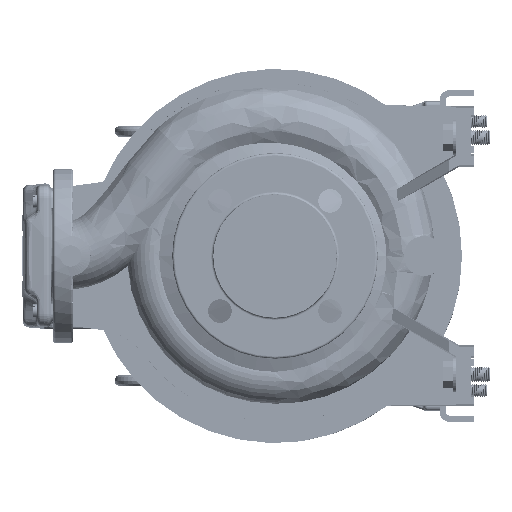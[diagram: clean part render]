
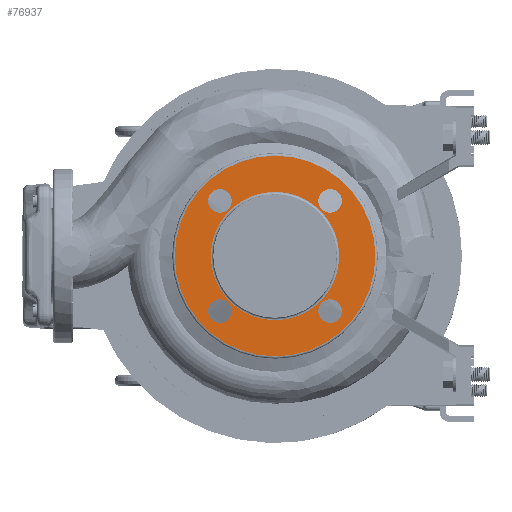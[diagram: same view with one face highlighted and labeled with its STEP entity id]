
A CAD part, left-side view. The second image highlights one B-rep face of the part: STEP entity #76937.
In plain terms, the highlighted planar face has unit normal (-1, 0, 0).
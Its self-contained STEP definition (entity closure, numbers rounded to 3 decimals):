
#822 = CARTESIAN_POINT ( 'NONE',  ( -114.905, 204.075, 358.538 ) ) ;
#1420 = EDGE_CURVE ( 'NONE', #146583, #10745, #122600, .T. ) ;
#1425 = FACE_BOUND ( 'NONE', #89716, .T. ) ;
#2298 = DIRECTION ( 'NONE',  ( 1., 0., 0. ) ) ;
#3631 = DIRECTION ( 'NONE',  ( -1., 0., 0. ) ) ;
#3690 = ORIENTED_EDGE ( 'NONE', *, *, #48684, .F. ) ;
#8106 = CARTESIAN_POINT ( 'NONE',  ( -114.905, 213.575, 358.538 ) ) ;
#9505 = EDGE_CURVE ( 'NONE', #37116, #163822, #12513, .T. ) ;
#9845 = DIRECTION ( 'NONE',  ( 0., -1., 0. ) ) ;
#10745 = VERTEX_POINT ( 'NONE', #72970 ) ;
#12186 = AXIS2_PLACEMENT_3D ( 'NONE', #30052, #86346, #153154 ) ;
#12513 = CIRCLE ( 'NONE', #110919, 9.5 ) ;
#16303 = EDGE_CURVE ( 'NONE', #10745, #146583, #161315, .T. ) ;
#19789 = CARTESIAN_POINT ( 'NONE',  ( -114.905, 125.186, 270.15 ) ) ;
#20727 = VERTEX_POINT ( 'NONE', #62708 ) ;
#20826 = EDGE_CURVE ( 'NONE', #81625, #20727, #34305, .T. ) ;
#25643 = VERTEX_POINT ( 'NONE', #99333 ) ;
#26769 = ORIENTED_EDGE ( 'NONE', *, *, #1420, .F. ) ;
#27843 = FACE_BOUND ( 'NONE', #29790, .T. ) ;
#28109 = CIRCLE ( 'NONE', #137778, 51.5 ) ;
#29710 = DIRECTION ( 'NONE',  ( 0., 1., 0. ) ) ;
#29790 = EDGE_LOOP ( 'NONE', ( #93252, #166045 ) ) ;
#30052 = CARTESIAN_POINT ( 'NONE',  ( -114.905, 169.38, 314.344 ) ) ;
#30196 = CARTESIAN_POINT ( 'NONE',  ( -114.905, 169.38, 314.344 ) ) ;
#30654 = DIRECTION ( 'NONE',  ( -1., 0., 0. ) ) ;
#34305 = CIRCLE ( 'NONE', #79297, 9.5 ) ;
#35158 = DIRECTION ( 'NONE',  ( 0., -1., 0. ) ) ;
#35689 = DIRECTION ( 'NONE',  ( 0., -1., 0. ) ) ;
#37116 = VERTEX_POINT ( 'NONE', #56909 ) ;
#37875 = CARTESIAN_POINT ( 'NONE',  ( -114.905, 134.686, 270.15 ) ) ;
#38111 = VERTEX_POINT ( 'NONE', #168193 ) ;
#39414 = EDGE_CURVE ( 'NONE', #78380, #110939, #128878, .T. ) ;
#39940 = DIRECTION ( 'NONE',  ( 0., 0., -1. ) ) ;
#41705 = AXIS2_PLACEMENT_3D ( 'NONE', #123519, #79569, #39940 ) ;
#41852 = ORIENTED_EDGE ( 'NONE', *, *, #39414, .F. ) ;
#42281 = CARTESIAN_POINT ( 'NONE',  ( -114.905, 88.88, 314.344 ) ) ;
#47090 = DIRECTION ( 'NONE',  ( 0., 1., 0. ) ) ;
#48684 = EDGE_CURVE ( 'NONE', #20727, #81625, #146886, .T. ) ;
#51262 = EDGE_LOOP ( 'NONE', ( #99006, #98546 ) ) ;
#54943 = CIRCLE ( 'NONE', #130807, 51.5 ) ;
#55136 = FACE_OUTER_BOUND ( 'NONE', #88783, .T. ) ;
#56909 = CARTESIAN_POINT ( 'NONE',  ( -114.905, 223.075, 358.538 ) ) ;
#62708 = CARTESIAN_POINT ( 'NONE',  ( -114.905, 223.075, 270.15 ) ) ;
#64311 = EDGE_CURVE ( 'NONE', #172142, #25643, #78334, .T. ) ;
#65583 = CIRCLE ( 'NONE', #12186, 80.5 ) ;
#66185 = DIRECTION ( 'NONE',  ( -1., 0., 0. ) ) ;
#68589 = EDGE_LOOP ( 'NONE', ( #109811, #3690 ) ) ;
#70071 = FACE_BOUND ( 'NONE', #140508, .T. ) ;
#71046 = AXIS2_PLACEMENT_3D ( 'NONE', #166064, #30654, #165223 ) ;
#71925 = CARTESIAN_POINT ( 'NONE',  ( -114.905, 125.186, 270.15 ) ) ;
#72970 = CARTESIAN_POINT ( 'NONE',  ( -114.905, 115.686, 270.15 ) ) ;
#75889 = DIRECTION ( 'NONE',  ( -1., 0., 0. ) ) ;
#76937 = ADVANCED_FACE ( 'NONE', ( #70071, #1425, #149245, #27843, #136934, #55136 ), #148384, .F. ) ;
#77868 = EDGE_CURVE ( 'NONE', #110939, #78380, #138170, .T. ) ;
#78334 = CIRCLE ( 'NONE', #86750, 80.5 ) ;
#78380 = VERTEX_POINT ( 'NONE', #139366 ) ;
#79297 = AXIS2_PLACEMENT_3D ( 'NONE', #108427, #66185, #94355 ) ;
#79569 = DIRECTION ( 'NONE',  ( -1., 0., 0. ) ) ;
#79852 = AXIS2_PLACEMENT_3D ( 'NONE', #19789, #128050, #47090 ) ;
#81546 = CARTESIAN_POINT ( 'NONE',  ( -114.905, 220.88, 314.344 ) ) ;
#81625 = VERTEX_POINT ( 'NONE', #163196 ) ;
#82937 = ORIENTED_EDGE ( 'NONE', *, *, #64311, .T. ) ;
#83048 = DIRECTION ( 'NONE',  ( -1., 0., 0. ) ) ;
#83773 = DIRECTION ( 'NONE',  ( 0., 0., -1. ) ) ;
#84618 = CARTESIAN_POINT ( 'NONE',  ( -114.905, 125.186, 358.538 ) ) ;
#84819 = AXIS2_PLACEMENT_3D ( 'NONE', #84618, #3631, #83773 ) ;
#86108 = ORIENTED_EDGE ( 'NONE', *, *, #124659, .T. ) ;
#86346 = DIRECTION ( 'NONE',  ( -1., 0., 0. ) ) ;
#86750 = AXIS2_PLACEMENT_3D ( 'NONE', #30196, #83048, #135814 ) ;
#88531 = ORIENTED_EDGE ( 'NONE', *, *, #16303, .F. ) ;
#88783 = EDGE_LOOP ( 'NONE', ( #82937, #86108 ) ) ;
#89716 = EDGE_LOOP ( 'NONE', ( #88531, #26769 ) ) ;
#92237 = CIRCLE ( 'NONE', #117493, 9.5 ) ;
#92864 = EDGE_CURVE ( 'NONE', #169094, #38111, #54943, .T. ) ;
#93252 = ORIENTED_EDGE ( 'NONE', *, *, #98254, .F. ) ;
#94355 = DIRECTION ( 'NONE',  ( 0., 0., 1. ) ) ;
#94841 = CARTESIAN_POINT ( 'NONE',  ( -114.905, 213.575, 358.538 ) ) ;
#95621 = DIRECTION ( 'NONE',  ( 0., 1., 0. ) ) ;
#98254 = EDGE_CURVE ( 'NONE', #163822, #37116, #92237, .T. ) ;
#98546 = ORIENTED_EDGE ( 'NONE', *, *, #153817, .F. ) ;
#99006 = ORIENTED_EDGE ( 'NONE', *, *, #92864, .F. ) ;
#99333 = CARTESIAN_POINT ( 'NONE',  ( -114.905, 249.88, 314.344 ) ) ;
#104353 = CARTESIAN_POINT ( 'NONE',  ( -114.905, 115.686, 358.538 ) ) ;
#108427 = CARTESIAN_POINT ( 'NONE',  ( -114.905, 213.575, 270.15 ) ) ;
#109811 = ORIENTED_EDGE ( 'NONE', *, *, #20826, .F. ) ;
#110919 = AXIS2_PLACEMENT_3D ( 'NONE', #94841, #148463, #165923 ) ;
#110939 = VERTEX_POINT ( 'NONE', #104353 ) ;
#114602 = ORIENTED_EDGE ( 'NONE', *, *, #77868, .F. ) ;
#117493 = AXIS2_PLACEMENT_3D ( 'NONE', #8106, #75889, #9845 ) ;
#122600 = CIRCLE ( 'NONE', #147935, 9.5 ) ;
#123519 = CARTESIAN_POINT ( 'NONE',  ( -114.905, 125.186, 358.538 ) ) ;
#124659 = EDGE_CURVE ( 'NONE', #25643, #172142, #65583, .T. ) ;
#128050 = DIRECTION ( 'NONE',  ( -1., 0., 0. ) ) ;
#128455 = DIRECTION ( 'NONE',  ( -1., 0., 0. ) ) ;
#128878 = CIRCLE ( 'NONE', #41705, 9.5 ) ;
#130807 = AXIS2_PLACEMENT_3D ( 'NONE', #155306, #143011, #35689 ) ;
#135814 = DIRECTION ( 'NONE',  ( 0., -1., 0. ) ) ;
#136934 = FACE_BOUND ( 'NONE', #51262, .T. ) ;
#137778 = AXIS2_PLACEMENT_3D ( 'NONE', #150708, #128455, #35158 ) ;
#138170 = CIRCLE ( 'NONE', #84819, 9.5 ) ;
#139366 = CARTESIAN_POINT ( 'NONE',  ( -114.905, 134.686, 358.538 ) ) ;
#140508 = EDGE_LOOP ( 'NONE', ( #114602, #41852 ) ) ;
#143011 = DIRECTION ( 'NONE',  ( -1., 0., 0. ) ) ;
#143562 = AXIS2_PLACEMENT_3D ( 'NONE', #81546, #2298, #95621 ) ;
#146102 = CARTESIAN_POINT ( 'NONE',  ( -114.905, 117.88, 314.344 ) ) ;
#146583 = VERTEX_POINT ( 'NONE', #37875 ) ;
#146886 = CIRCLE ( 'NONE', #71046, 9.5 ) ;
#147935 = AXIS2_PLACEMENT_3D ( 'NONE', #71925, #151089, #29710 ) ;
#148384 = PLANE ( 'NONE',  #143562 ) ;
#148463 = DIRECTION ( 'NONE',  ( -1., 0., 0. ) ) ;
#149245 = FACE_BOUND ( 'NONE', #68589, .T. ) ;
#150708 = CARTESIAN_POINT ( 'NONE',  ( -114.905, 169.38, 314.344 ) ) ;
#151089 = DIRECTION ( 'NONE',  ( -1., 0., 0. ) ) ;
#153154 = DIRECTION ( 'NONE',  ( 0., -1., 0. ) ) ;
#153817 = EDGE_CURVE ( 'NONE', #38111, #169094, #28109, .T. ) ;
#155306 = CARTESIAN_POINT ( 'NONE',  ( -114.905, 169.38, 314.344 ) ) ;
#161315 = CIRCLE ( 'NONE', #79852, 9.5 ) ;
#163196 = CARTESIAN_POINT ( 'NONE',  ( -114.905, 204.075, 270.15 ) ) ;
#163822 = VERTEX_POINT ( 'NONE', #822 ) ;
#165223 = DIRECTION ( 'NONE',  ( 0., 0., 1. ) ) ;
#165923 = DIRECTION ( 'NONE',  ( 0., -1., 0. ) ) ;
#166045 = ORIENTED_EDGE ( 'NONE', *, *, #9505, .F. ) ;
#166064 = CARTESIAN_POINT ( 'NONE',  ( -114.905, 213.575, 270.15 ) ) ;
#168193 = CARTESIAN_POINT ( 'NONE',  ( -114.905, 220.88, 314.344 ) ) ;
#169094 = VERTEX_POINT ( 'NONE', #146102 ) ;
#172142 = VERTEX_POINT ( 'NONE', #42281 ) ;
